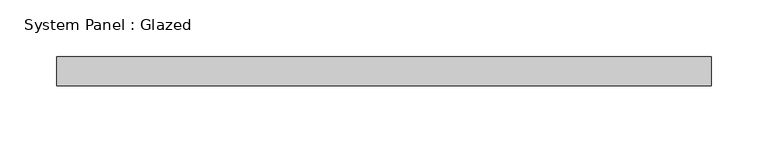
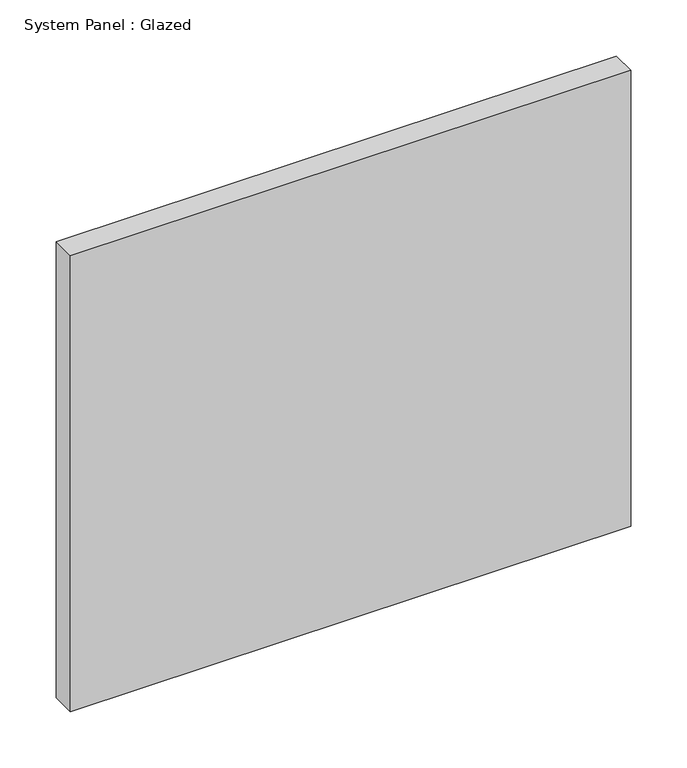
"""IFC4 building model written with IfcOpenShell, lengths in millimetres: plate geometry, System Panel : Glazed."""

from ifc_helpers import new_model, si_unit, origin, origin_with_axes, place, context, project, spatial, polyline, outline, extrude, source, transform, mapped, element, save


def system_panel_glazed_c885c3d8(model_context):
    return source(origin(), model_context, "Body", "SweptSolid", [
        extrude(outline(polyline([(287.8728478, -12.7), (-287.8728478, -12.7), (-287.8728478, 12.7), (287.8728478, 12.7), (287.8728478, -12.7)])), origin_with_axes(), (0.0, 0.0, 1.0), 495.3),
    ])


if __name__ == "__main__":
    model = new_model("IFC4")
    model_context = context("Model", 3, world=origin())
    ifc_project = project(units=[si_unit("LENGTHUNIT", "METRE", prefix="MILLI")], contexts=[model_context])
    site = spatial("IfcSite", under=ifc_project)
    building = spatial("IfcBuilding", under=site)
    placement = place(None, origin())
    system_panel_glazed_shape = system_panel_glazed_c885c3d8(model_context)
    element("IfcPlate", 1, ObjectType="System Panel : Glazed", at=placement, inside=building, context=model_context, shape_type="MappedRepresentation", body=[
        mapped(system_panel_glazed_shape, transform((0.0, 0.0, 0.0), x_axis=(1.0, 0.0, 0.0), y_axis=(0.0, 1.0, 0.0), z_axis=(0.0, 0.0, 1.0))),
    ])
    save(model, "model.ifc")
